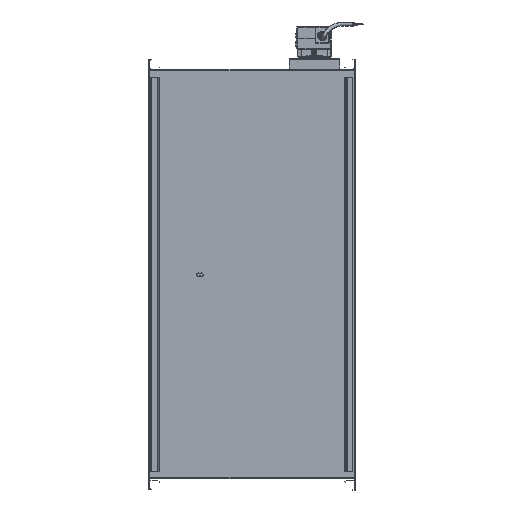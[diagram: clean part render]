
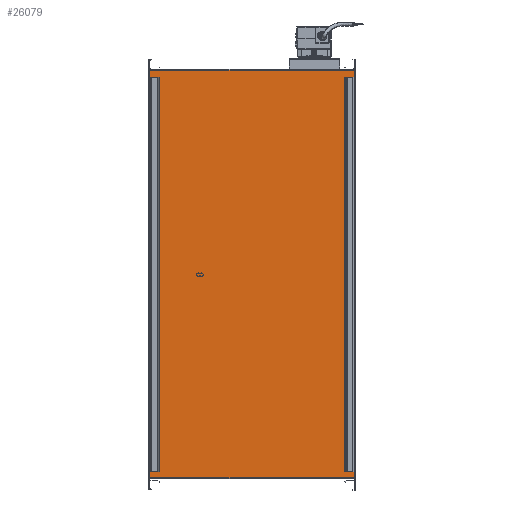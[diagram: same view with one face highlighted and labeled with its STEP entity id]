
A CAD part, front view. The second image highlights one B-rep face of the part: STEP entity #26079.
In plain terms, the highlighted planar face has unit normal (0, -1, 0).
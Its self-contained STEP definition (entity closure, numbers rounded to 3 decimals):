
#620 = CARTESIAN_POINT ( 'NONE',  ( -244.423, -335.848, 702. ) ) ;
#1919 = VERTEX_POINT ( 'NONE', #84100 ) ;
#3539 = EDGE_CURVE ( 'NONE', #1919, #50926, #26129, .T. ) ;
#3587 = CARTESIAN_POINT ( 'NONE',  ( -244.423, -335.848, 702. ) ) ;
#4971 = VECTOR ( 'NONE', #15490, 1000. ) ;
#15490 = DIRECTION ( 'NONE',  ( 0., 0., -1. ) ) ;
#19024 = LINE ( 'NONE', #76700, #66501 ) ;
#24594 = EDGE_CURVE ( 'NONE', #50926, #83547, #19024, .T. ) ;
#24843 = VERTEX_POINT ( 'NONE', #89892 ) ;
#26079 = ADVANCED_FACE ( 'NONE', ( #40551 ), #85205, .T. ) ;
#26129 = LINE ( 'NONE', #34314, #85327 ) ;
#27270 = CARTESIAN_POINT ( 'NONE',  ( -244.423, -335.848, 702. ) ) ;
#33079 = AXIS2_PLACEMENT_3D ( 'NONE', #3587, #41010, #69404 ) ;
#34314 = CARTESIAN_POINT ( 'NONE',  ( -244.423, -335.848, 1498. ) ) ;
#35346 = CARTESIAN_POINT ( 'NONE',  ( 155.577, -335.848, 1498. ) ) ;
#40551 = FACE_OUTER_BOUND ( 'NONE', #73441, .T. ) ;
#41010 = DIRECTION ( 'NONE',  ( 0., -1., 0. ) ) ;
#44214 = CARTESIAN_POINT ( 'NONE',  ( 155.577, -335.848, 702. ) ) ;
#50372 = EDGE_CURVE ( 'NONE', #24843, #83547, #93101, .T. ) ;
#50926 = VERTEX_POINT ( 'NONE', #35346 ) ;
#54007 = ORIENTED_EDGE ( 'NONE', *, *, #50372, .T. ) ;
#54400 = ORIENTED_EDGE ( 'NONE', *, *, #24594, .F. ) ;
#58967 = ORIENTED_EDGE ( 'NONE', *, *, #89042, .T. ) ;
#58972 = VECTOR ( 'NONE', #71524, 1000. ) ;
#66501 = VECTOR ( 'NONE', #91567, 1000. ) ;
#66927 = LINE ( 'NONE', #620, #4971 ) ;
#69404 = DIRECTION ( 'NONE',  ( 0., 0., -1. ) ) ;
#71524 = DIRECTION ( 'NONE',  ( 1., 0., 0. ) ) ;
#73441 = EDGE_LOOP ( 'NONE', ( #54400, #74528, #58967, #54007 ) ) ;
#74528 = ORIENTED_EDGE ( 'NONE', *, *, #3539, .F. ) ;
#76700 = CARTESIAN_POINT ( 'NONE',  ( 155.577, -335.848, 702. ) ) ;
#83547 = VERTEX_POINT ( 'NONE', #44214 ) ;
#84100 = CARTESIAN_POINT ( 'NONE',  ( -244.423, -335.848, 1498. ) ) ;
#85205 = PLANE ( 'NONE',  #33079 ) ;
#85327 = VECTOR ( 'NONE', #91488, 1000. ) ;
#89042 = EDGE_CURVE ( 'NONE', #1919, #24843, #66927, .T. ) ;
#89892 = CARTESIAN_POINT ( 'NONE',  ( -244.423, -335.848, 702. ) ) ;
#91488 = DIRECTION ( 'NONE',  ( 1., 0., 0. ) ) ;
#91567 = DIRECTION ( 'NONE',  ( 0., 0., -1. ) ) ;
#93101 = LINE ( 'NONE', #27270, #58972 ) ;
